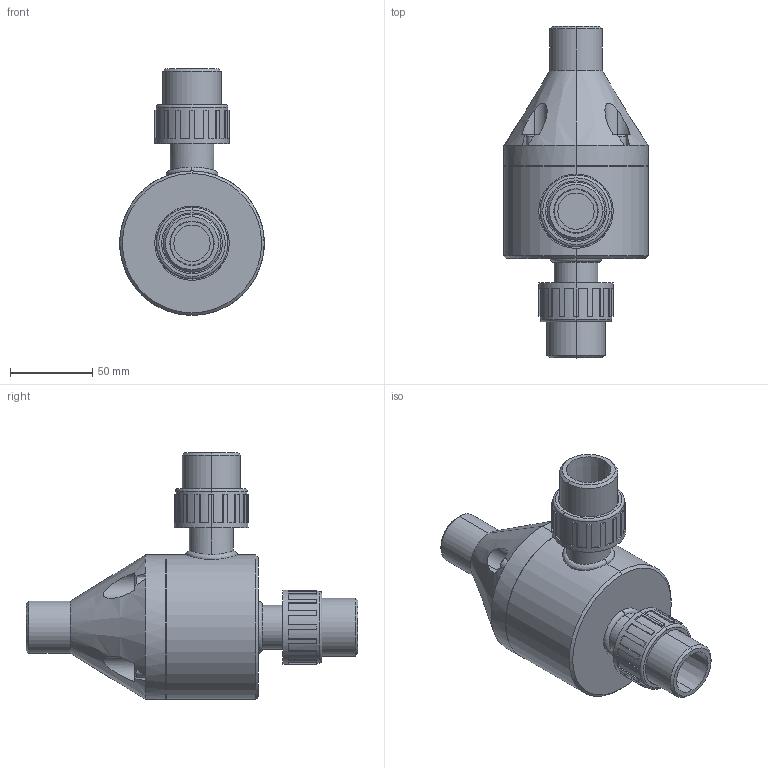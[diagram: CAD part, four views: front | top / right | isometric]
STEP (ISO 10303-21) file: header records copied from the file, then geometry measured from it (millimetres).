
FILE_DESCRIPTION (( 'STEP AP203' ), '1' );
FILE_NAME ('GBP0750_90-UNION.STEP', '2016-09-01T09:00:01', ( '' ), ( '' ), 'SwSTEP 2.0', 'SolidWorks 2014', '' );
FILE_SCHEMA (( 'CONFIG_CONTROL_DESIGN' ));
Length unit declared in the file: inch
Products named in the file (2): GBP0750_90-UNION
Bounding box: 87.63 x 201.29 x 149.73 mm (x, y, z)
Volume: 650781.4 mm3; surface area: 75057.7 mm2
Topology: 1 solids, 3 shells, 301 faces, 776 edges, 505 vertices
Faces by surface type: plane 213, cylinder 52, cone 26, torus 8, bspline 2
Entity records: 10254 total; most frequent: CARTESIAN_POINT 2539, DIRECTION 1643, ORIENTED_EDGE 1552, EDGE_CURVE 776, AXIS2_PLACEMENT_3D 589, VERTEX_POINT 505, LINE 465, VECTOR 465
